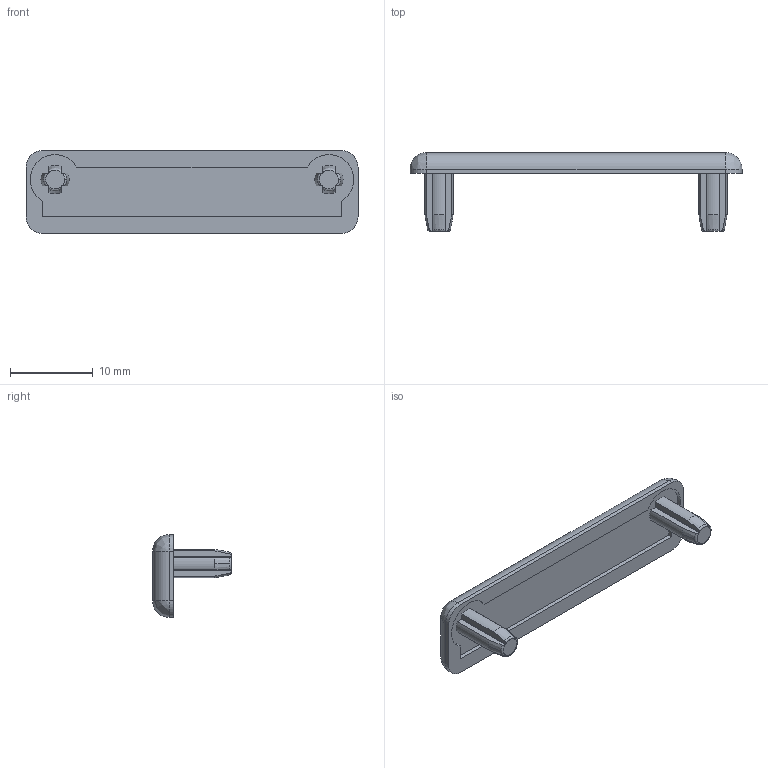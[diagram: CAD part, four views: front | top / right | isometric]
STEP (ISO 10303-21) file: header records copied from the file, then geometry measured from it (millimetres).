
FILE_DESCRIPTION (( 'STEP AP203' ), '1' );
FILE_NAME ('10016_ABD5.4010.STEP', '2018-05-18T07:09:34', ( '' ), ( '' ), 'SwSTEP 2.0', 'SolidWorks 2017', '' );
FILE_SCHEMA (( 'CONFIG_CONTROL_DESIGN' ));
Length unit declared in the file: millimetre
Products named in the file (1): 10016_ABD5.4010
Bounding box: 40 x 9.5 x 10 mm (x, y, z)
Volume: 902.3 mm3; surface area: 1167.8 mm2
Topology: 1 solids, 1 shells, 82 faces, 225 edges, 144 vertices
Faces by surface type: cylinder 29, plane 29, bspline 14, cone 10
Entity records: 2937 total; most frequent: CARTESIAN_POINT 875, ORIENTED_EDGE 442, DIRECTION 389, EDGE_CURVE 221, VERTEX_POINT 144, AXIS2_PLACEMENT_3D 143, LINE 103, VECTOR 103
